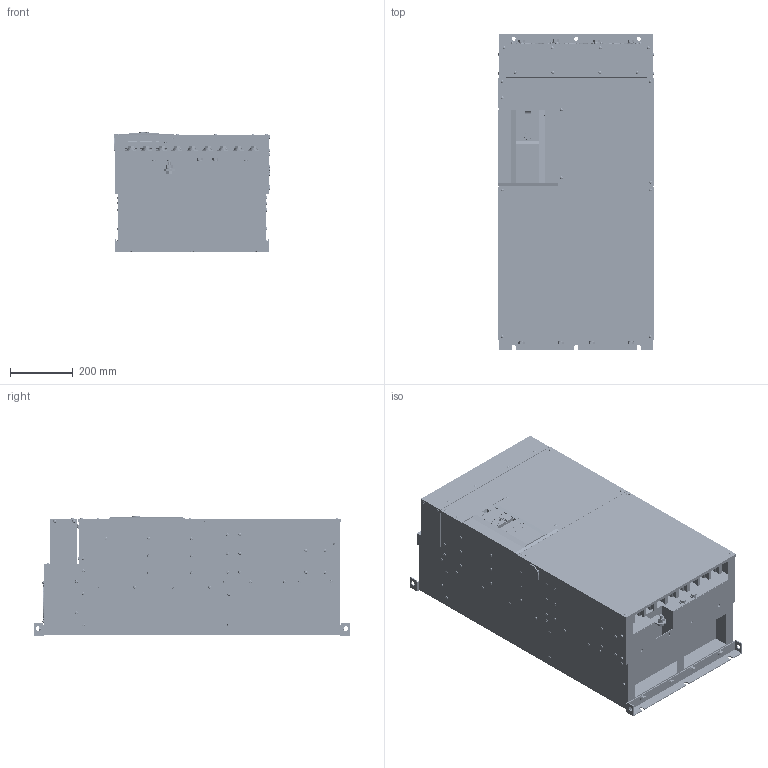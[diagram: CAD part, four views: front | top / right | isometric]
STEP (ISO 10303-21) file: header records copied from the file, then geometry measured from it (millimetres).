
FILE_DESCRIPTION((''),'2;1');
FILE_NAME('3D-INV-A8-02_19_ASM','2014-01-24T',('HY65544'),(''),'PRO/ENGINEER BY PARAMETRIC TECHNOLOGY CORPORATION, 2011490','PRO/ENGINEER BY PARAMETRIC TECHNOLOGY CORPORATION, 2011490','');
FILE_SCHEMA(('CONFIG_CONTROL_DESIGN'));
Products named in the file (40): 3D-BASE-A8-02_19; 3D-WAKU-A8-02_19_ASM; 3D-ASHI_LWR-A8-02_19; 3D-BOLT-ASHI-LWR; 3D-BOLT-ASHI-LWR-A8-02_19_ASM; 3D-ASHI-UPR-A8-02_19; 3D-BOLT-ASHI-UPR-A8-02_19; 3D-BOLT-ASHI-UPR-A8-02_19_ASM; 3D-BUSH-A8; 3D-BUSH-A8_ASM; 3D-FAN_GANE-ASSY-A8-02_19; 3D-FAN_GANE-ASSY-A8-02_19_ASM; 3D-FAN-A8-02_19; 3D-SC-SW-PW-P-M4X60_; 3D-FAN_A8-02_19; 3D-FAN-A8-02_19_ASM; 3D-FAN_ASSY-A8-02_19_ASM; 3D-BOLT-SW-PW-M10X25_; 3D-TE_NEJI-M4X8_; 3D-TE_COV-R1S1_; 3D-TE_ASSY-A8-R1S1_ASM; 3D-TA-A8; 3D-A8-TA_ASM; 3D-BOLT-M12X30-A8; 3D-M12X30_A8_ASM; 3D-BOLT-DOT-A8-02_19_ASM; 3D-BOLT-M12X30-DOT-P-A8-02_19; 3D-BOLT-M12X30-DOT-P-A8-02_19_ASM; 3D-CA_COVER-A8; 3D-DU_ASSY-A8; 3D-IF_COV-A80; 3D-SC-PN-BD-M4X10-BZN-A8; 3D-CA_COV-A8_ASM; 3D-COV_LWR-A8-02_19; 3D-BOLT-STE-COV-LWR-A8-02_19; 3D-BOLT-COV-LWR-A8-02_19_ASM; 3D-COVER-FAN-A8-02_19; 3D-BOLT-STE-COV-FAN-A8-02_19; 3D-BOLT-COV-FAN-A8-02_19_ASM; 3D-INV-A8-02_19_ASM
Assembly tree (57 placements, depth 4):
  3D-INV-A8-02_19_ASM
    3D-WAKU-A8-02_19_ASM
      3D-BASE-A8-02_19
    3D-ASHI_LWR-A8-02_19
    3D-BOLT-ASHI-LWR-A8-02_19_ASM
      3D-BOLT-ASHI-LWR
    3D-ASHI-UPR-A8-02_19
    3D-BOLT-ASHI-UPR-A8-02_19_ASM
      3D-BOLT-ASHI-UPR-A8-02_19
    3D-BUSH-A8_ASM
      3D-BUSH-A8
    3D-FAN_ASSY-A8-02_19_ASM
      3D-FAN_GANE-ASSY-A8-02_19_ASM
        3D-FAN_GANE-ASSY-A8-02_19
      3D-FAN-A8-02_19_ASM  x3
        3D-FAN-A8-02_19
        3D-SC-SW-PW-P-M4X60_
        3D-FAN_A8-02_19
    3D-BOLT-SW-PW-M10X25_  x2
    3D-TE_ASSY-A8-R1S1_ASM
      3D-TE_NEJI-M4X8_  x4
      3D-TE_COV-R1S1_
    3D-A8-TA_ASM
      3D-TA-A8
    3D-BOLT-DOT-A8-02_19_ASM
      3D-M12X30_A8_ASM  x9
        3D-BOLT-M12X30-A8
    3D-BOLT-M12X30-DOT-P-A8-02_19_ASM
      3D-BOLT-M12X30-DOT-P-A8-02_19
    3D-CA_COV-A8_ASM
      3D-CA_COVER-A8
      3D-DU_ASSY-A8
      3D-IF_COV-A80
      3D-SC-PN-BD-M4X10-BZN-A8  x2
    3D-COV_LWR-A8-02_19
    3D-BOLT-COV-LWR-A8-02_19_ASM
      3D-BOLT-STE-COV-LWR-A8-02_19
    3D-COVER-FAN-A8-02_19
    3D-BOLT-COV-FAN-A8-02_19_ASM
      3D-BOLT-STE-COV-FAN-A8-02_19
Bounding box: 499.7 x 1010 x 381 mm (x, y, z)
Volume: 141958999 mm3; surface area: 4809316.9 mm2
Topology: 70 solids, 88 shells, 5997 faces, 15714 edges, 9850 vertices
Faces by surface type: plane 3868, cylinder 1579, torus 312, sphere 136, cone 102
Entity records: 158915 total; most frequent: DIRECTION 28319, CARTESIAN_POINT 27250, ORIENTED_EDGE 26828, EDGE_CURVE 13414, AXIS2_PLACEMENT_3D 9797, VECTOR 8725, LINE 8725, VERTEX_POINT 8492
